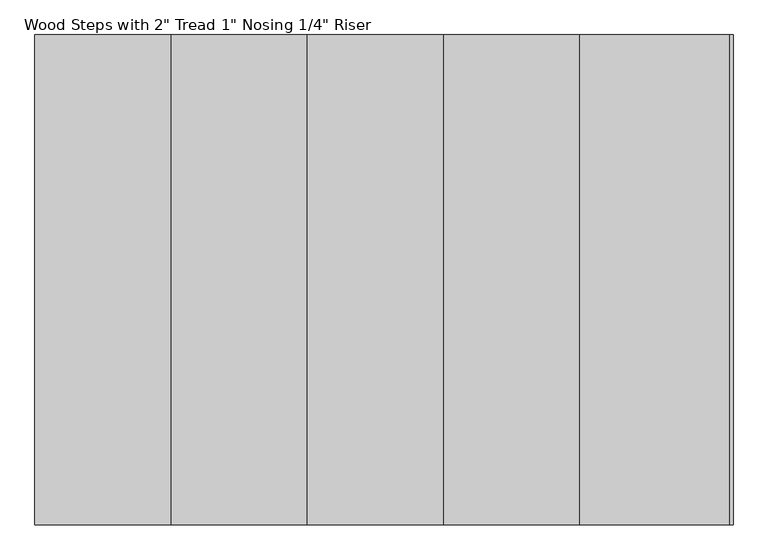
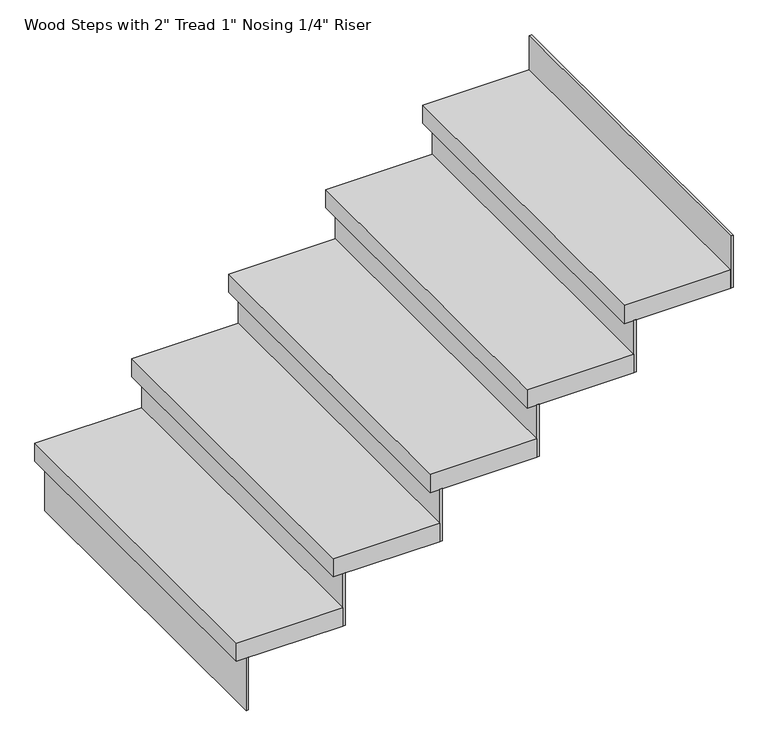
"""IFC4 building model written with IfcOpenShell, lengths in millimetres: stair flight geometry."""

from ifc_helpers import new_model, si_unit, frame, origin, place, context, project, spatial, polyline, outline, extrude, source, transform, mapped, element, save


def stair_flight_a734e51d(model_context):
    return source(origin(), model_context, "Body", "SweptSolid", [
        extrude(outline(polyline([(-45936.8145607, 14880.2177722), (-45943.1645607, 14880.2177722), (-45943.1645607, 15794.6177722), (-45936.8145607, 15794.6177722), (-45936.8145607, 14880.2177722)])), frame((0.0, 0.0, 2126.3428571), z_axis=(0.0, 0.0, 1.0), x_axis=(1.0, 0.0, 0.0)), (0.0, 0.0, 1.0), 145.1428571),
        extrude(outline(polyline([(-45689.1645607, 15794.6177722), (-45689.1645607, 14880.2177722), (-45968.5645607, 14880.2177722), (-45968.5645607, 15794.6177722), (-45689.1645607, 15794.6177722)])), frame((0.0, 0.0, 2271.4857143), z_axis=(0.0, 0.0, 1.0), x_axis=(1.0, 0.0, 0.0)), (0.0, 0.0, 1.0), 50.8),
        extrude(outline(polyline([(-45682.8145607, 14880.2177722), (-45689.1645607, 14880.2177722), (-45689.1645607, 15794.6177722), (-45682.8145607, 15794.6177722), (-45682.8145607, 14880.2177722)])), frame((0.0, 0.0, 2271.4857143), z_axis=(0.0, 0.0, 1.0), x_axis=(1.0, 0.0, 0.0)), (0.0, 0.0, 1.0), 145.1428571),
        extrude(outline(polyline([(-45435.1645607, 15794.6177722), (-45435.1645607, 14880.2177722), (-45714.5645607, 14880.2177722), (-45714.5645607, 15794.6177722), (-45435.1645607, 15794.6177722)])), frame((0.0, 0.0, 2416.6285714), z_axis=(0.0, 0.0, 1.0), x_axis=(1.0, 0.0, 0.0)), (0.0, 0.0, 1.0), 50.8),
        extrude(outline(polyline([(-45428.8145607, 14880.2177722), (-45435.1645607, 14880.2177722), (-45435.1645607, 15794.6177722), (-45428.8145607, 15794.6177722), (-45428.8145607, 14880.2177722)])), frame((0.0, 0.0, 2416.6285714), z_axis=(0.0, 0.0, 1.0), x_axis=(1.0, 0.0, 0.0)), (0.0, 0.0, 1.0), 145.1428571),
        extrude(outline(polyline([(-45181.1645607, 15794.6177722), (-45181.1645607, 14880.2177722), (-45460.5645607, 14880.2177722), (-45460.5645607, 15794.6177722), (-45181.1645607, 15794.6177722)])), frame((0.0, 0.0, 2561.7714286), z_axis=(0.0, 0.0, 1.0), x_axis=(1.0, 0.0, 0.0)), (0.0, 0.0, 1.0), 50.8),
        extrude(outline(polyline([(-45174.8145607, 14880.2177722), (-45181.1645607, 14880.2177722), (-45181.1645607, 15794.6177722), (-45174.8145607, 15794.6177722), (-45174.8145607, 14880.2177722)])), frame((0.0, 0.0, 2561.7714286), z_axis=(0.0, 0.0, 1.0), x_axis=(1.0, 0.0, 0.0)), (0.0, 0.0, 1.0), 145.1428571),
        extrude(outline(polyline([(-44927.1645607, 15794.6177722), (-44927.1645607, 14880.2177722), (-45206.5645607, 14880.2177722), (-45206.5645607, 15794.6177722), (-44927.1645607, 15794.6177722)])), frame((0.0, 0.0, 2706.9142857), z_axis=(0.0, 0.0, 1.0), x_axis=(1.0, 0.0, 0.0)), (0.0, 0.0, 1.0), 50.8),
        extrude(outline(polyline([(-44920.8145607, 14880.2177722), (-44927.1645607, 14880.2177722), (-44927.1645607, 15794.6177722), (-44920.8145607, 15794.6177722), (-44920.8145607, 14880.2177722)])), frame((0.0, 0.0, 2706.9142857), z_axis=(0.0, 0.0, 1.0), x_axis=(1.0, 0.0, 0.0)), (0.0, 0.0, 1.0), 145.1428571),
        extrude(outline(polyline([(-44666.8145607, 14880.2177722), (-44673.1645607, 14880.2177722), (-44673.1645607, 15794.6177722), (-44666.8145607, 15794.6177722), (-44666.8145607, 14880.2177722)])), frame((0.0, 0.0, 2852.0571429), z_axis=(0.0, 0.0, 1.0), x_axis=(1.0, 0.0, 0.0)), (0.0, 0.0, 1.0), 145.1428571),
        extrude(outline(polyline([(-44673.1645607, 15794.6177722), (-44673.1645607, 14880.2177722), (-44952.5645607, 14880.2177722), (-44952.5645607, 15794.6177722), (-44673.1645607, 15794.6177722)])), frame((0.0, 0.0, 2852.0571429), z_axis=(0.0, 0.0, 1.0), x_axis=(1.0, 0.0, 0.0)), (0.0, 0.0, 1.0), 50.8),
    ])


if __name__ == "__main__":
    model = new_model("IFC4")
    model_context = context("Model", 3, world=origin())
    ifc_project = project(units=[si_unit("LENGTHUNIT", "METRE", prefix="MILLI")], contexts=[model_context])
    site = spatial("IfcSite", under=ifc_project)
    building = spatial("IfcBuilding", under=site)
    placement = place(None, origin())
    stair_flight_shape = stair_flight_a734e51d(model_context)
    element("IfcStairFlight", 1, ObjectType="Wood Steps with 2\" Tread 1\" Nosing 1/4\" Riser", at=placement, inside=building, context=model_context, shape_type="MappedRepresentation", body=[
        mapped(stair_flight_shape, transform((0.0, 0.0, 0.0), x_axis=(1.0, 0.0, 0.0), y_axis=(0.0, 1.0, 0.0), z_axis=(0.0, 0.0, 1.0))),
    ])
    save(model, "model.ifc")
